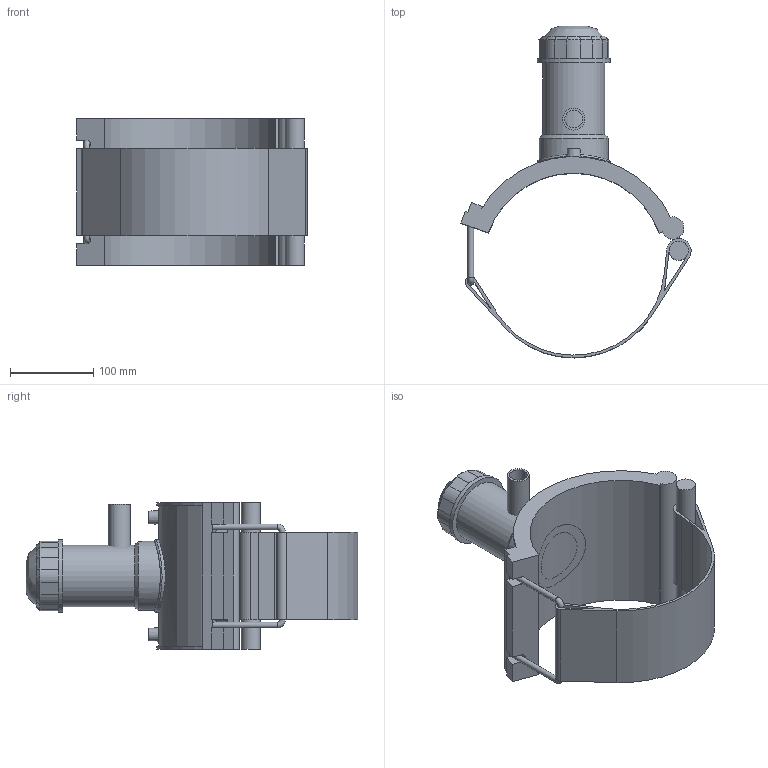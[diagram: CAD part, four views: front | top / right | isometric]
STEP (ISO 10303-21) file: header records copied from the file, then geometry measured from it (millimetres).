
FILE_DESCRIPTION(/* description */ ('PLASSON TAPPING SADDLE 8''''IPS x 3/4''''IPS'),/* implementation_level */ '2;1');
FILE_NAME(/* name */ 'C:\Dropbox\KIMPROJECTS-Inventor 2019\99-16-3568-Processing Inch\ASTM ElectroFusion 2021\5963BBP_5963BUP\5963BBP3080007.ipt.stp',/* time_stamp */ '2021-08-30T09:57:27+03:00',/* author */ ('KIM'),/* organization */ (''),/* preprocessor_version */ 'ST-DEVELOPER v17.2',/* originating_system */ 'Autodesk Inventor 2019',/* authorisation */ '');
FILE_SCHEMA (('AUTOMOTIVE_DESIGN { 1 0 10303 214 3 1 1 }'));
Length unit declared in the file: inch
Products named in the file (1): 5963BBP3080007
Bounding box: 276.84 x 399.02 x 176.02 mm (x, y, z)
Volume: 1806944.6 mm3; surface area: 357257.2 mm2
Topology: 3 solids, 3 shells, 124 faces, 315 edges, 205 vertices
Faces by surface type: plane 69, cylinder 40, cone 11, torus 2, bspline 2
Full cylindrical faces by diameter (mm): 4 x2, 6.998 x2, 10 x2, 21.28 x1, 23.048 x1, 26.6 x1, 61.236 x1, 74.358 x1, 83.106 x1, 87.48 x2
Entity records: 4260 total; most frequent: CARTESIAN_POINT 1120, DIRECTION 663, ORIENTED_EDGE 632, EDGE_CURVE 316, AXIS2_PLACEMENT_3D 241, VERTEX_POINT 205, LINE 181, VECTOR 181
